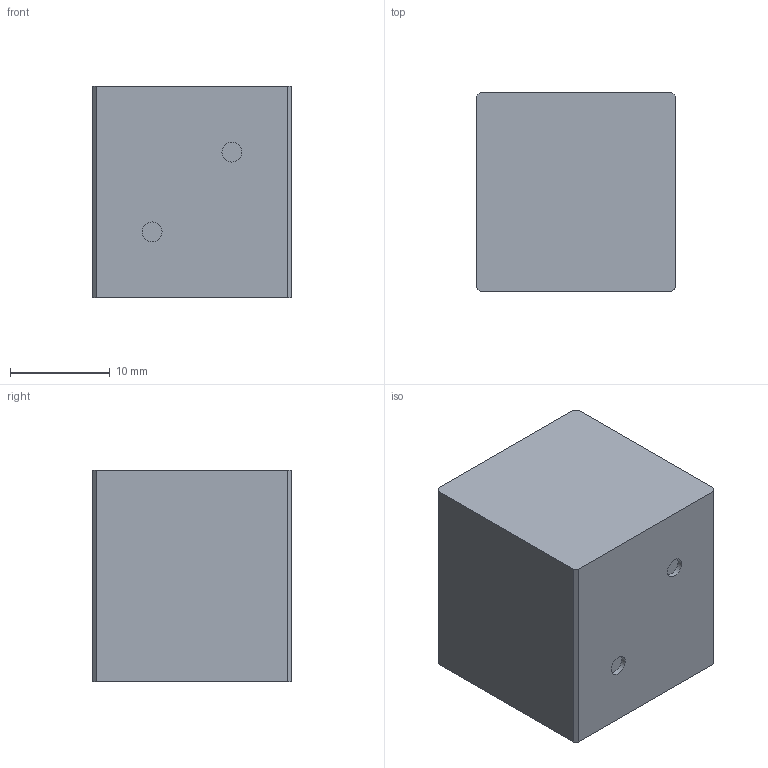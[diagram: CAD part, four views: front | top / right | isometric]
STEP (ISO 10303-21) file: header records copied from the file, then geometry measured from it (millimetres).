
FILE_DESCRIPTION(('Open CASCADE Model'),'2;1');
FILE_NAME('Open CASCADE Shape Model','2026-08-23T08:04:37',('Author'),( 'Open CASCADE'),'Open CASCADE STEP processor 7.9','Open CASCADE 7.9' ,'Unknown');
FILE_SCHEMA(('AUTOMOTIVE_DESIGN { 1 0 10303 214 1 1 1 1 }'));
Length unit declared in the file: millimetre
Products named in the file (2): =>[0:1:1:2]; COMPOUND
Assembly tree (1 placements, depth 2):
  =>[0:1:1:2]
    COMPOUND
Bounding box: 20 x 20 x 21.25 mm (x, y, z)
Volume: 8490.1 mm3; surface area: 2485.7 mm2
Topology: 1 solids, 1 shells, 14 faces, 30 edges, 20 vertices
Faces by surface type: plane 12, cylinder 2
Full cylindrical faces by diameter (mm): 2 x2
Entity records: 818 total; most frequent: CARTESIAN_POINT 138, DIRECTION 124, LINE 82, VECTOR 82, ORIENTED_EDGE 60, PCURVE 60, DEFINITIONAL_REPRESENTATION 60, EDGE_CURVE 30
